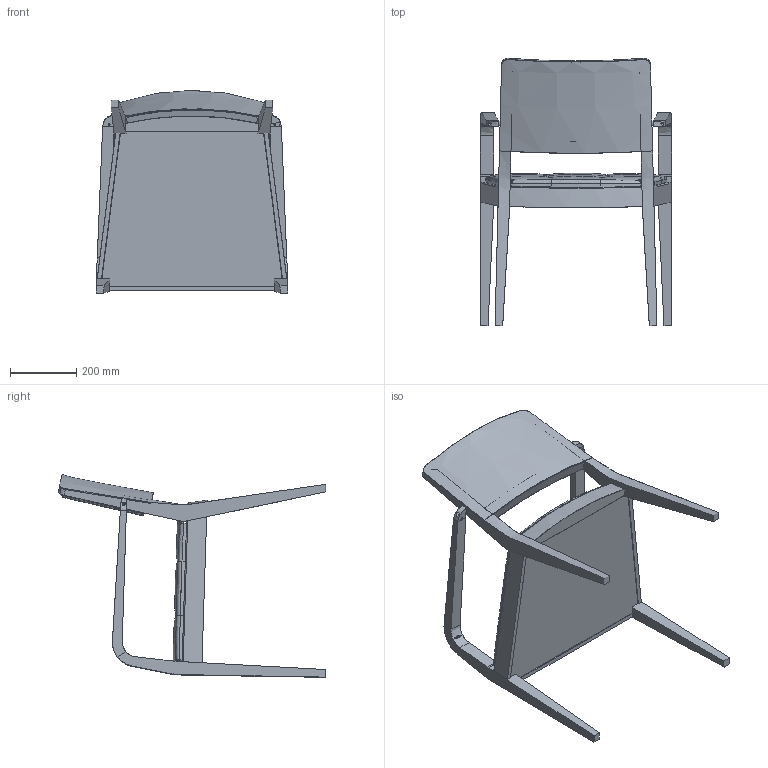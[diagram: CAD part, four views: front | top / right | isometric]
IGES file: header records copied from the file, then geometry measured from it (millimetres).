
Start section: SolidWorks IGES file using analytic representation for surfaces
Global section: file name: D:\DESENHOSSOLIDWORKS\Desenhos Tecnicos\Fabrica2\Cadeiras\Técnicos\CIBELLE\3d surfaces\Cibelle M618.IGS; native system: SolidWorks 2012; preprocessor: SolidWorks 2012; author: emanuel; date: 121029.095506; units: millimetre
Bounding box: 581.02 x 809.11 x 613.64 mm (x, y, z)
Surface area: 1706223.2 mm2 (no closed solid volume)
Topology: 0 solids, 0 shells, 235 faces, 4015 edges, 4001 vertices
Faces by surface type: bspline 203, revolution 32
